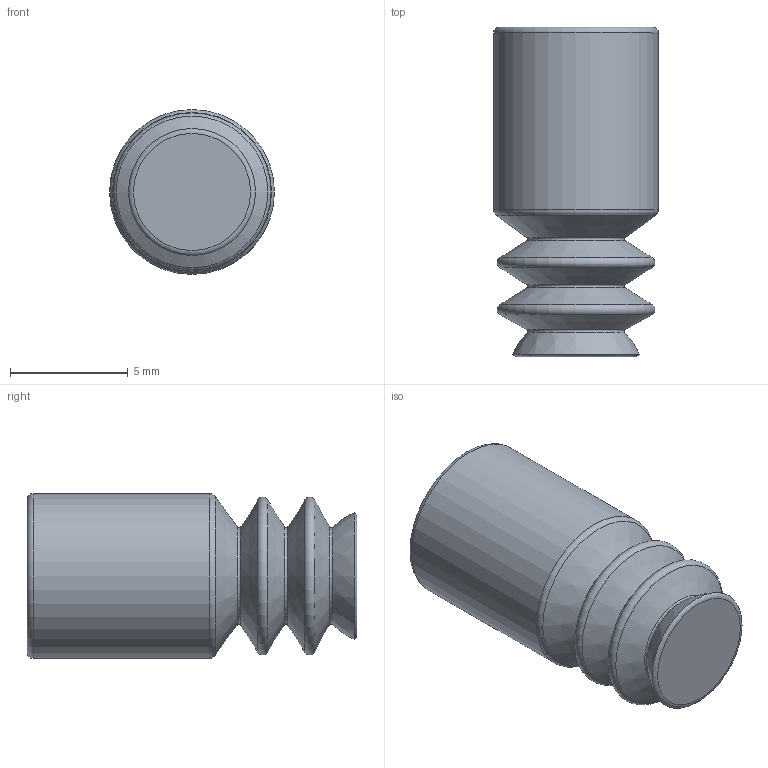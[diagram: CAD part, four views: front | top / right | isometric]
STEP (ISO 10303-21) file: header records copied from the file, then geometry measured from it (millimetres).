
FILE_DESCRIPTION(/* description */ (''),/* implementation_level */ '2;1');
FILE_NAME(/* name */ 'W:\Technik\Konstruktion\CAD-Daten\Vakuumsauger\21_\21.005.057\21.005.057_Kd neu.stp',/* time_stamp */ '2017-07-04T10:18:00+02:00',/* author */ ('DFloßmann'),/* organization */ (''),/* preprocessor_version */ 'ST-DEVELOPER v16.5',/* originating_system */ 'Autodesk Inventor 2017',/* authorisation */ '');
FILE_SCHEMA (('AUTOMOTIVE_DESIGN { 1 0 10303 214 3 1 1 }'));
Length unit declared in the file: millimetre
Products named in the file (1): 21.005.057_Kd neu
Bounding box: 7 x 14 x 7 mm (x, y, z)
Volume: 342 mm3; surface area: 562.2 mm2
Topology: 1 solids, 3 shells, 27 faces, 56 edges, 32 vertices
Faces by surface type: torus 10, cone 9, cylinder 4, plane 3, bspline 1
Full cylindrical faces by diameter (mm): 3.85 x3, 7 x1
Entity records: 614 total; most frequent: CARTESIAN_POINT 113, DIRECTION 110, ORIENTED_EDGE 58, AXIS2_PLACEMENT_3D 55, EDGE_LOOP 51, EDGE_CURVE 29, CIRCLE 28, VERTEX_POINT 28
